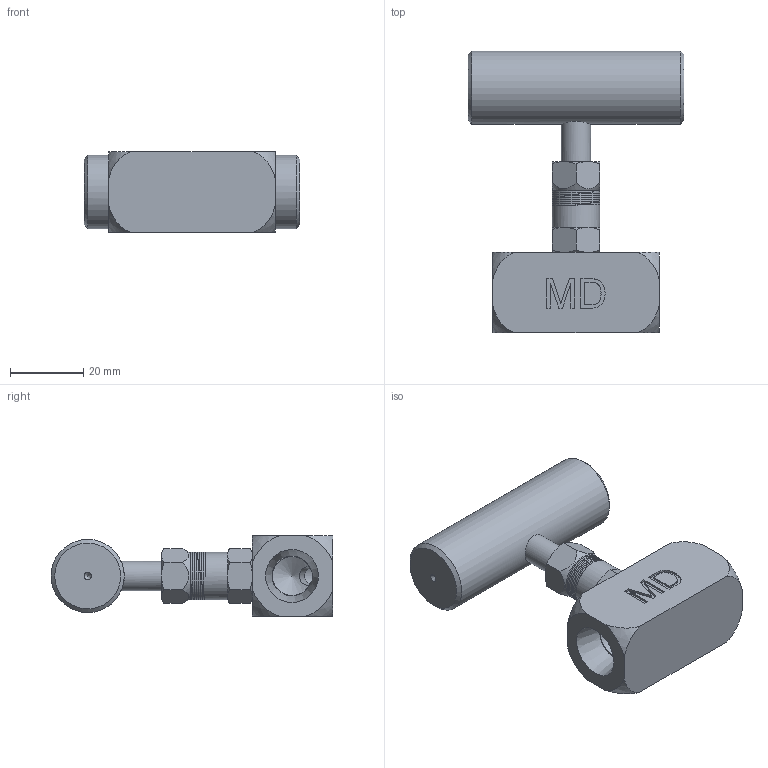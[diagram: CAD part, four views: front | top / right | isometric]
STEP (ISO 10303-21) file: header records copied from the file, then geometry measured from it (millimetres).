
FILE_DESCRIPTION(/* description */ ('Unknown'),/* implementation_level */ '2;1');
FILE_NAME(/* name */ 'NV-0060-DN8',/* time_stamp */ '2022-03-28T09:35:26+08:00',/* author */ ('Unknown'),/* organization */ ('Unknown'),/* preprocessor_version */ 'ST-DEVELOPER v16.7',/* originating_system */ 'DEX',/* authorisation */ $);
FILE_SCHEMA (('AUTOMOTIVE_DESIGN {1 0 10303 214 3 1 1}'));
Length unit declared in the file: millimetre
Products named in the file (2): NV-0060-DN8; NV-0060-DN8_0
Assembly tree (1 placements, depth 2):
  NV-0060-DN8
    NV-0060-DN8_0
Bounding box: 59 x 77 x 22 mm (x, y, z)
Volume: 38867.7 mm3; surface area: 12996.3 mm2
Topology: 1 solids, 1 shells, 202 faces, 512 edges, 337 vertices
Faces by surface type: plane 113, cone 32, bspline 28, cylinder 21, torus 8
Full cylindrical faces by diameter (mm): 5 x2, 8 x2, 8.4 x1, 9 x1, 10.7 x1, 13 x8, 20 x1
Entity records: 9719 total; most frequent: CARTESIAN_POINT 4136, ORIENTED_EDGE 904, DIRECTION 692, EDGE_CURVE 452, VERTEX_POINT 320, FACE_BOUND 256, EDGE_LOOP 251, LINE 236
